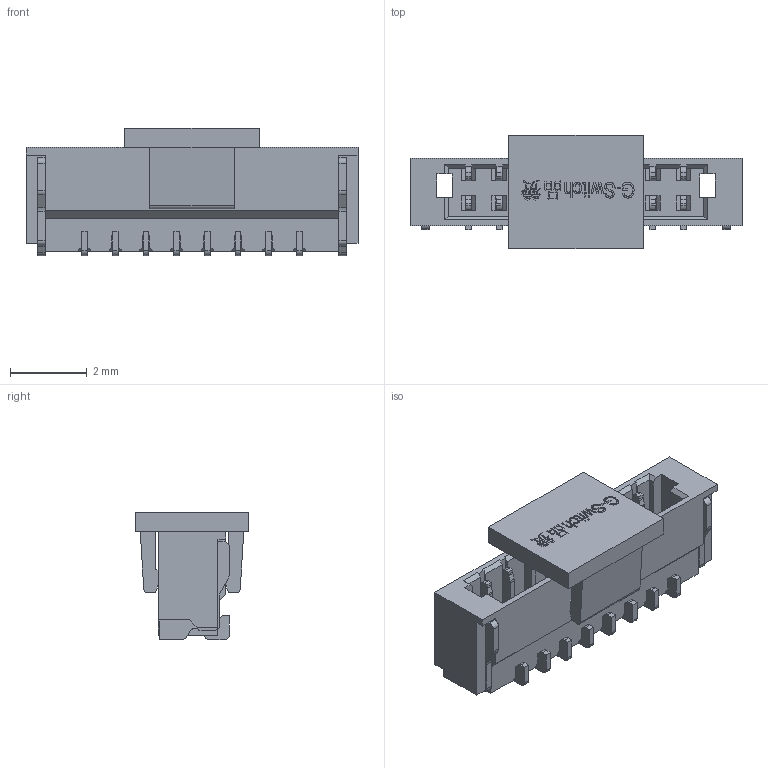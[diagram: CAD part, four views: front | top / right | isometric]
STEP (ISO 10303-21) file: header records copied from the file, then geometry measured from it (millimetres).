
FILE_DESCRIPTION (( 'STEP AP203' ), '1' );
FILE_NAME ('GT-D0801WVS-108SBT01.STEP', '2024-09-25T10:51:28', ( '' ), ( '' ), 'SwSTEP 2.0', 'SolidWorks 2020', '' );
FILE_SCHEMA (( 'CONFIG_CONTROL_DESIGN' ));
Length unit declared in the file: millimetre
Products named in the file (6): 0820L.stp; 545.stp; PRT00015.stp; PRT000185.stp; GT-D0801WVS-108SBT01; GT-D0801WVS-108SBT01.stp
Assembly tree (25 placements, depth 3):
  GT-D0801WVS-108SBT01
    GT-D0801WVS-108SBT01.stp
      0820L.stp
      PRT00015.stp  x20
      545.stp  x2
      PRT000185.stp
Bounding box: 8.65 x 2.95 x 3.32 mm (x, y, z)
Volume: 32.8 mm3; surface area: 288.7 mm2
Topology: 24 solids, 24 shells, 1443 faces, 4158 edges, 2760 vertices
Faces by surface type: plane 884, cylinder 488, bspline 71
Entity records: 25546 total; most frequent: CARTESIAN_POINT 7749, ORIENTED_EDGE 3708, DIRECTION 3066, EDGE_CURVE 1854, VECTOR 1544, LINE 1544, VERTEX_POINT 1224, AXIS2_PLACEMENT_3D 761
